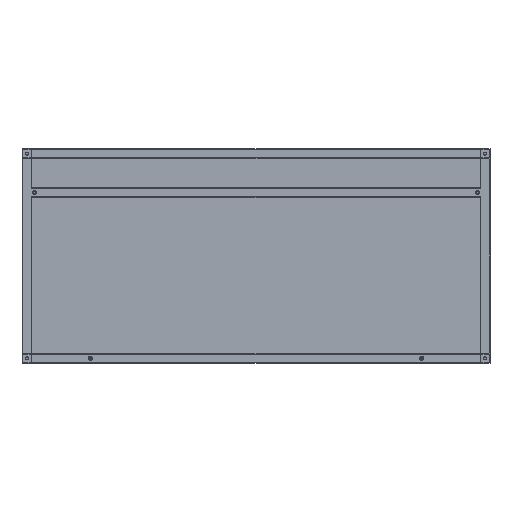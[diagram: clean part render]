
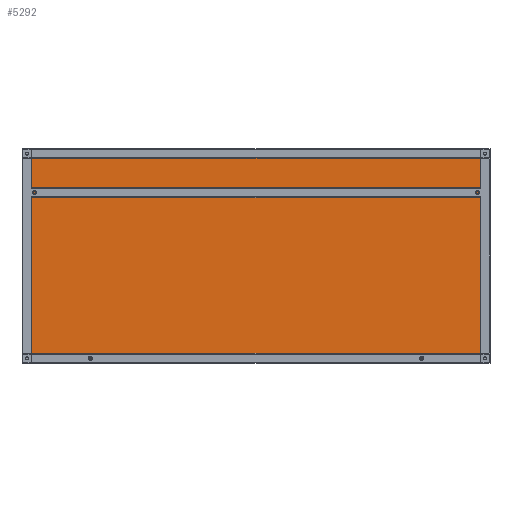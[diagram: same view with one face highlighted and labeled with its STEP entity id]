
A CAD part, front view. The second image highlights one B-rep face of the part: STEP entity #5292.
In plain terms, the highlighted planar face has unit normal (0, -1, 0) as drawn and (0, 0, -1) by its records, which use the part's own axes.
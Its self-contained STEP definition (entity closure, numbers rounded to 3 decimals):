
#378 = LINE ( 'NONE', #6534, #1598 ) ;
#879 = EDGE_CURVE ( 'NONE', #2149, #4234, #1828, .T. ) ;
#1032 = EDGE_CURVE ( 'NONE', #4234, #5878, #378, .T. ) ;
#1502 = ORIENTED_EDGE ( 'NONE', *, *, #5751, .F. ) ;
#1598 = VECTOR ( 'NONE', #2981, 1000. ) ;
#1797 = CARTESIAN_POINT ( 'NONE',  ( 25., 275., 0. ) ) ;
#1828 = LINE ( 'NONE', #1797, #3096 ) ;
#1884 = EDGE_LOOP ( 'NONE', ( #3902, #4040, #1502, #3600 ) ) ;
#1971 = AXIS2_PLACEMENT_3D ( 'NONE', #4110, #2490, #6158 ) ;
#2149 = VERTEX_POINT ( 'NONE', #5734 ) ;
#2426 = CARTESIAN_POINT ( 'NONE',  ( 25., -250., 0. ) ) ;
#2490 = DIRECTION ( 'NONE',  ( 0., 0., 1. ) ) ;
#2948 = VECTOR ( 'NONE', #4305, 1000. ) ;
#2981 = DIRECTION ( 'NONE',  ( 1., 0., 0. ) ) ;
#3096 = VECTOR ( 'NONE', #5911, 1000. ) ;
#3215 = LINE ( 'NONE', #3284, #4001 ) ;
#3284 = CARTESIAN_POINT ( 'NONE',  ( 25., 275., 0. ) ) ;
#3287 = LINE ( 'NONE', #6437, #2948 ) ;
#3312 = DIRECTION ( 'NONE',  ( -1., 0., 0. ) ) ;
#3569 = PLANE ( 'NONE',  #1971 ) ;
#3600 = ORIENTED_EDGE ( 'NONE', *, *, #1032, .F. ) ;
#3902 = ORIENTED_EDGE ( 'NONE', *, *, #879, .F. ) ;
#3986 = CARTESIAN_POINT ( 'NONE',  ( 1175., 275., 0. ) ) ;
#4001 = VECTOR ( 'NONE', #3312, 1000. ) ;
#4040 = ORIENTED_EDGE ( 'NONE', *, *, #4163, .F. ) ;
#4110 = CARTESIAN_POINT ( 'NONE',  ( 0., 0., 0. ) ) ;
#4163 = EDGE_CURVE ( 'NONE', #4960, #2149, #3215, .T. ) ;
#4234 = VERTEX_POINT ( 'NONE', #2426 ) ;
#4305 = DIRECTION ( 'NONE',  ( 0., 1., 0. ) ) ;
#4556 = FACE_OUTER_BOUND ( 'NONE', #1884, .T. ) ;
#4960 = VERTEX_POINT ( 'NONE', #3986 ) ;
#5292 = ADVANCED_FACE ( 'NONE', ( #4556 ), #3569, .F. ) ;
#5668 = CARTESIAN_POINT ( 'NONE',  ( 1175., -250., 0. ) ) ;
#5734 = CARTESIAN_POINT ( 'NONE',  ( 25., 275., 0. ) ) ;
#5751 = EDGE_CURVE ( 'NONE', #5878, #4960, #3287, .T. ) ;
#5878 = VERTEX_POINT ( 'NONE', #5668 ) ;
#5911 = DIRECTION ( 'NONE',  ( 0., -1., 0. ) ) ;
#6158 = DIRECTION ( 'NONE',  ( 1., 0., 0. ) ) ;
#6437 = CARTESIAN_POINT ( 'NONE',  ( 1175., 275., 0. ) ) ;
#6534 = CARTESIAN_POINT ( 'NONE',  ( 25., -250., 0. ) ) ;
